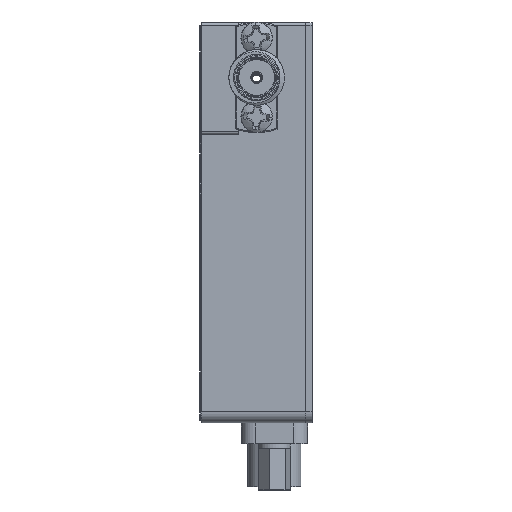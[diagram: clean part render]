
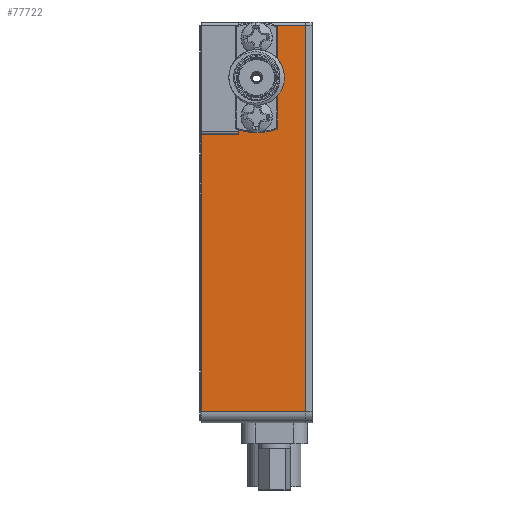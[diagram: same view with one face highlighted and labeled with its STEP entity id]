
A CAD part, left-side view. The second image highlights one B-rep face of the part: STEP entity #77722.
In plain terms, the highlighted planar face has unit normal (-1, 0, 0).
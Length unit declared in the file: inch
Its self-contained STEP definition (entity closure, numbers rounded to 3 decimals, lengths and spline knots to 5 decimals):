
#792 = AXIS2_PLACEMENT_3D ( 'NONE', #55275, #55656, #7740 ) ;
#884 = ORIENTED_EDGE ( 'NONE', *, *, #14016, .F. ) ;
#1250 = CARTESIAN_POINT ( 'NONE',  ( -1.48817, -0.27225, -1.08761 ) ) ;
#1413 = CARTESIAN_POINT ( 'NONE',  ( -1.48817, -0.27225, -1.08761 ) ) ;
#1470 = VECTOR ( 'NONE', #25328, 39.37008 ) ;
#1802 = DIRECTION ( 'NONE',  ( 0., 1., 0. ) ) ;
#2053 = FACE_BOUND ( 'NONE', #48591, .T. ) ;
#2063 = DIRECTION ( 'NONE',  ( 0., 1., 0. ) ) ;
#3239 = EDGE_CURVE ( 'NONE', #44116, #62947, #6331, .T. ) ;
#4113 = DIRECTION ( 'NONE',  ( 0., 0., 1. ) ) ;
#4738 = DIRECTION ( 'NONE',  ( 0., 0., 1. ) ) ;
#4957 = VECTOR ( 'NONE', #38030, 39.37008 ) ;
#5373 = VERTEX_POINT ( 'NONE', #56246 ) ;
#6331 = CIRCLE ( 'NONE', #72741, 0.043 ) ;
#6620 = EDGE_LOOP ( 'NONE', ( #59602, #34807 ) ) ;
#7390 = CARTESIAN_POINT ( 'NONE',  ( -1.48817, -0.05325, 0.46139 ) ) ;
#7740 = DIRECTION ( 'NONE',  ( 0., 0., 1. ) ) ;
#8084 = AXIS2_PLACEMENT_3D ( 'NONE', #37175, #61133, #13620 ) ;
#8762 = LINE ( 'NONE', #27624, #50226 ) ;
#10575 = VERTEX_POINT ( 'NONE', #14700 ) ;
#11339 = CARTESIAN_POINT ( 'NONE',  ( -1.48817, -0.27225, 0.65239 ) ) ;
#11580 = LINE ( 'NONE', #18654, #1470 ) ;
#11953 = CARTESIAN_POINT ( 'NONE',  ( -1.48817, -0.27225, 0.65239 ) ) ;
#13261 = CARTESIAN_POINT ( 'NONE',  ( -1.48817, -0.05325, 0.36339 ) ) ;
#13620 = DIRECTION ( 'NONE',  ( 0., 0., 1. ) ) ;
#14016 = EDGE_CURVE ( 'NONE', #53169, #10575, #11580, .T. ) ;
#14700 = CARTESIAN_POINT ( 'NONE',  ( -1.48817, 0.02675, 0.65239 ) ) ;
#15211 = VERTEX_POINT ( 'NONE', #66863 ) ;
#17451 = DIRECTION ( 'NONE',  ( 0., 0., 1. ) ) ;
#18242 = ORIENTED_EDGE ( 'NONE', *, *, #74406, .T. ) ;
#18654 = CARTESIAN_POINT ( 'NONE',  ( -1.48817, 0.02675, 0.66239 ) ) ;
#19001 = PLANE ( 'NONE',  #40574 ) ;
#19918 = CIRCLE ( 'NONE', #29984, 0.043 ) ;
#20222 = ORIENTED_EDGE ( 'NONE', *, *, #56820, .F. ) ;
#20942 = CARTESIAN_POINT ( 'NONE',  ( -1.48817, -0.05325, 0.63789 ) ) ;
#21842 = CARTESIAN_POINT ( 'NONE',  ( -1.48817, -0.05325, 0.22989 ) ) ;
#22789 = DIRECTION ( 'NONE',  ( 0., 0., 1. ) ) ;
#24687 = CIRCLE ( 'NONE', #792, 0.049 ) ;
#24942 = CARTESIAN_POINT ( 'NONE',  ( -1.48817, 0.02675, 0.16239 ) ) ;
#25328 = DIRECTION ( 'NONE',  ( 0., 0., 1. ) ) ;
#26200 = ORIENTED_EDGE ( 'NONE', *, *, #61444, .F. ) ;
#26554 = DIRECTION ( 'NONE',  ( 0., 0., -1. ) ) ;
#26835 = CARTESIAN_POINT ( 'NONE',  ( -1.48817, -0.27225, 0.65239 ) ) ;
#27624 = CARTESIAN_POINT ( 'NONE',  ( -1.48817, 0.02675, 0.16239 ) ) ;
#27908 = DIRECTION ( 'NONE',  ( -1., 0., 0. ) ) ;
#28329 = VECTOR ( 'NONE', #1802, 39.37008 ) ;
#29984 = AXIS2_PLACEMENT_3D ( 'NONE', #60128, #36171, #4738 ) ;
#33972 = CIRCLE ( 'NONE', #36440, 0.043 ) ;
#34292 = ORIENTED_EDGE ( 'NONE', *, *, #35963, .F. ) ;
#34807 = ORIENTED_EDGE ( 'NONE', *, *, #66698, .F. ) ;
#35209 = DIRECTION ( 'NONE',  ( -1., 0., 0. ) ) ;
#35211 = DIRECTION ( 'NONE',  ( 0., 1., 0. ) ) ;
#35963 = EDGE_CURVE ( 'NONE', #5373, #37101, #19918, .T. ) ;
#36171 = DIRECTION ( 'NONE',  ( -1., 0., 0. ) ) ;
#36440 = AXIS2_PLACEMENT_3D ( 'NONE', #21842, #35209, #4113 ) ;
#36486 = LINE ( 'NONE', #73694, #4957 ) ;
#37101 = VERTEX_POINT ( 'NONE', #71304 ) ;
#37175 = CARTESIAN_POINT ( 'NONE',  ( -1.48817, -0.05325, 0.59489 ) ) ;
#38008 = ORIENTED_EDGE ( 'NONE', *, *, #73365, .T. ) ;
#38030 = DIRECTION ( 'NONE',  ( 0., 0., -1. ) ) ;
#38316 = LINE ( 'NONE', #73997, #67866 ) ;
#38721 = VERTEX_POINT ( 'NONE', #11339 ) ;
#39438 = VERTEX_POINT ( 'NONE', #62514 ) ;
#40574 = AXIS2_PLACEMENT_3D ( 'NONE', #26835, #50411, #74664 ) ;
#44116 = VERTEX_POINT ( 'NONE', #20942 ) ;
#44720 = EDGE_CURVE ( 'NONE', #58536, #49068, #50238, .T. ) ;
#45132 = ORIENTED_EDGE ( 'NONE', *, *, #73934, .T. ) ;
#48468 = CARTESIAN_POINT ( 'NONE',  ( -1.48817, -0.05325, 0.41239 ) ) ;
#48591 = EDGE_LOOP ( 'NONE', ( #20222, #60156 ) ) ;
#49068 = VERTEX_POINT ( 'NONE', #7390 ) ;
#50226 = VECTOR ( 'NONE', #2063, 39.37008 ) ;
#50238 = CIRCLE ( 'NONE', #67758, 0.049 ) ;
#50411 = DIRECTION ( 'NONE',  ( 1., 0., 0. ) ) ;
#53169 = VERTEX_POINT ( 'NONE', #24942 ) ;
#53987 = VERTEX_POINT ( 'NONE', #1250 ) ;
#55275 = CARTESIAN_POINT ( 'NONE',  ( -1.48817, -0.05325, 0.41239 ) ) ;
#55629 = LINE ( 'NONE', #1413, #28329 ) ;
#55656 = DIRECTION ( 'NONE',  ( -1., 0., 0. ) ) ;
#55886 = FACE_BOUND ( 'NONE', #6620, .T. ) ;
#56246 = CARTESIAN_POINT ( 'NONE',  ( -1.48817, -0.05325, 0.18689 ) ) ;
#56820 = EDGE_CURVE ( 'NONE', #49068, #58536, #24687, .T. ) ;
#57834 = EDGE_LOOP ( 'NONE', ( #884, #45132, #38008, #67036, #26200, #18242 ) ) ;
#58536 = VERTEX_POINT ( 'NONE', #13261 ) ;
#59393 = CARTESIAN_POINT ( 'NONE',  ( -1.48817, -0.05325, 0.55189 ) ) ;
#59602 = ORIENTED_EDGE ( 'NONE', *, *, #3239, .F. ) ;
#60128 = CARTESIAN_POINT ( 'NONE',  ( -1.48817, -0.05325, 0.22989 ) ) ;
#60156 = ORIENTED_EDGE ( 'NONE', *, *, #44720, .F. ) ;
#61133 = DIRECTION ( 'NONE',  ( -1., 0., 0. ) ) ;
#61444 = EDGE_CURVE ( 'NONE', #38721, #53987, #38316, .T. ) ;
#62371 = EDGE_CURVE ( 'NONE', #37101, #5373, #33972, .T. ) ;
#62514 = CARTESIAN_POINT ( 'NONE',  ( -1.48817, 0.19675, 0.16239 ) ) ;
#62947 = VERTEX_POINT ( 'NONE', #59393 ) ;
#64250 = LINE ( 'NONE', #11953, #71606 ) ;
#64417 = CARTESIAN_POINT ( 'NONE',  ( -1.48817, -0.05325, 0.59489 ) ) ;
#66129 = DIRECTION ( 'NONE',  ( -1., 0., 0. ) ) ;
#66698 = EDGE_CURVE ( 'NONE', #62947, #44116, #75837, .T. ) ;
#66863 = CARTESIAN_POINT ( 'NONE',  ( -1.48817, 0.19675, -1.08761 ) ) ;
#67036 = ORIENTED_EDGE ( 'NONE', *, *, #67211, .F. ) ;
#67211 = EDGE_CURVE ( 'NONE', #53987, #15211, #55629, .T. ) ;
#67758 = AXIS2_PLACEMENT_3D ( 'NONE', #48468, #66129, #17451 ) ;
#67866 = VECTOR ( 'NONE', #26554, 39.37008 ) ;
#70262 = ORIENTED_EDGE ( 'NONE', *, *, #62371, .F. ) ;
#71304 = CARTESIAN_POINT ( 'NONE',  ( -1.48817, -0.05325, 0.27289 ) ) ;
#71606 = VECTOR ( 'NONE', #35211, 39.37008 ) ;
#72740 = FACE_BOUND ( 'NONE', #77275, .T. ) ;
#72741 = AXIS2_PLACEMENT_3D ( 'NONE', #64417, #27908, #22789 ) ;
#73365 = EDGE_CURVE ( 'NONE', #39438, #15211, #36486, .T. ) ;
#73694 = CARTESIAN_POINT ( 'NONE',  ( -1.48817, 0.19675, 0.65239 ) ) ;
#73900 = FACE_OUTER_BOUND ( 'NONE', #57834, .T. ) ;
#73934 = EDGE_CURVE ( 'NONE', #53169, #39438, #8762, .T. ) ;
#73997 = CARTESIAN_POINT ( 'NONE',  ( -1.48817, -0.27225, 0.65239 ) ) ;
#74406 = EDGE_CURVE ( 'NONE', #38721, #10575, #64250, .T. ) ;
#74664 = DIRECTION ( 'NONE',  ( 0., 0., -1. ) ) ;
#75837 = CIRCLE ( 'NONE', #8084, 0.043 ) ;
#77275 = EDGE_LOOP ( 'NONE', ( #70262, #34292 ) ) ;
#77722 = ADVANCED_FACE ( 'NONE', ( #72740, #55886, #2053, #73900 ), #19001, .F. ) ;
